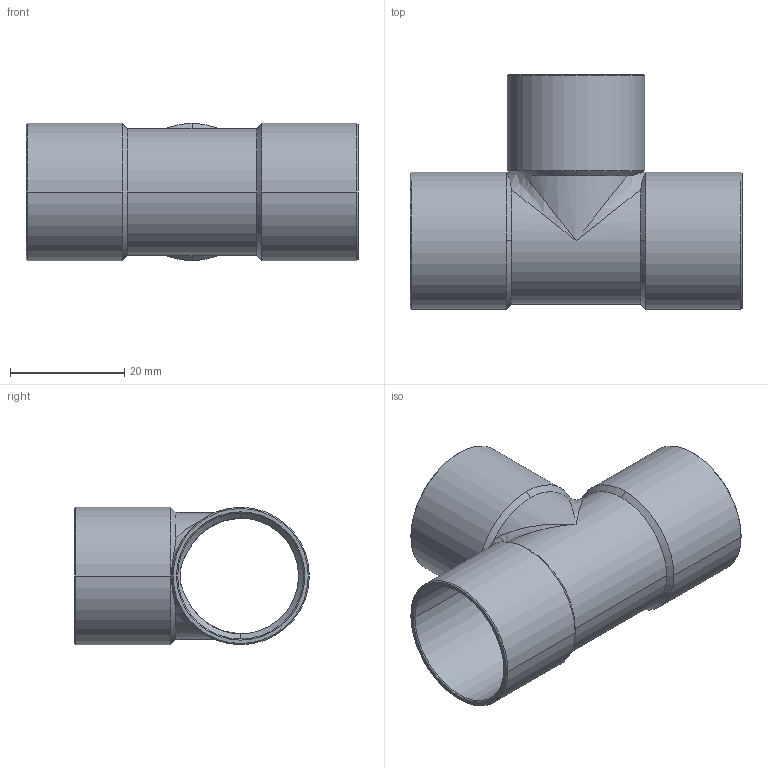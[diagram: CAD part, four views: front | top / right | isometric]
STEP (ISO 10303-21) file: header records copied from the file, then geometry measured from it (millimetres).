
FILE_DESCRIPTION((''),'2;1');
FILE_NAME('P:\Bouwmaten\z-maattekeningen 3D\5000\5130\d\513022.stp','2005-10-19T08:45:08',('Kris'),(''),'Autodesk Inventor 8','Autodesk Inventor 8','');
FILE_SCHEMA(('AUTOMOTIVE_DESIGN { 1 0 10303 214 1 1 1 1 }'));
Length unit declared in the file: millimetre
Products named in the file (1): 513022
Bounding box: 58 x 41 x 24 mm (x, y, z)
Volume: 5209.1 mm3; surface area: 10597.6 mm2
Topology: 1 solids, 1 shells, 51 faces, 142 edges, 84 vertices
Faces by surface type: cone 24, cylinder 20, bspline 4, plane 3
Entity records: 2103 total; most frequent: CARTESIAN_POINT 762, DIRECTION 310, ORIENTED_EDGE 268, AXIS2_PLACEMENT_3D 136, EDGE_CURVE 134, VERTEX_POINT 84, CIRCLE 72, EDGE_LOOP 54
